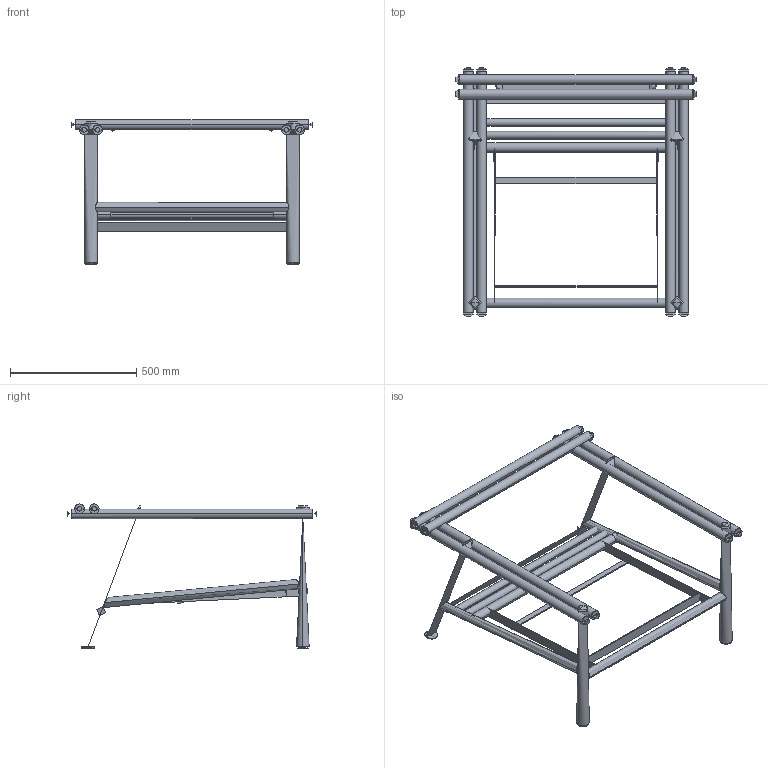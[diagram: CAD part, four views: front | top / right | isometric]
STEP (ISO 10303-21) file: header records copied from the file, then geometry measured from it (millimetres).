
FILE_DESCRIPTION(/* description */ (''),/* implementation_level */ '2;1');
FILE_NAME(/* name */ 'SKBSTI~1',/* time_stamp */ '2024-01-04T09:39:33+07:00',/* author */ (''),/* organization */ (''),/* preprocessor_version */ 'ST-DEVELOPER v16.5',/* originating_system */ '',/* authorisation */ '');
FILE_SCHEMA (('AUTOMOTIVE_DESIGN'));
Length unit declared in the file: centimetre
Products named in the file (1): Document
Bounding box: 951 x 987.66 x 570.47 mm (x, y, z)
Volume: 20663326.7 mm3; surface area: 2276535.8 mm2
Topology: 49 solids, 49 shells, 352 faces, 728 edges, 440 vertices
Faces by surface type: bspline 352
Entity records: 27569 total; most frequent: CARTESIAN_POINT 18359, B_SPLINE_CURVE_WITH_KNOTS 1402, ORIENTED_EDGE 1322, PCURVE 1322, DEFINITIONAL_REPRESENTATION 1322, SURFACE_CURVE 661, EDGE_CURVE 661, VERTEX_POINT 423
